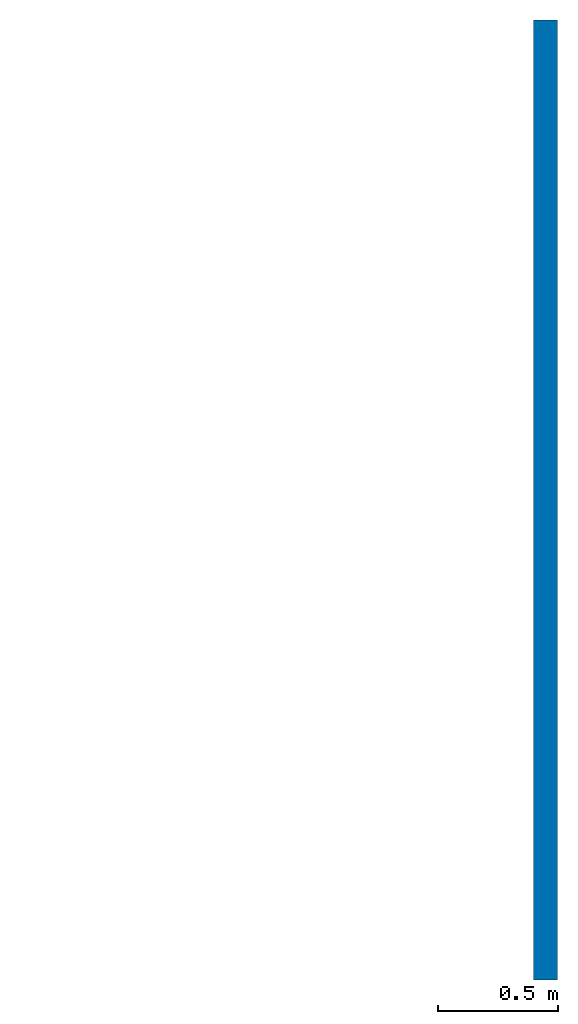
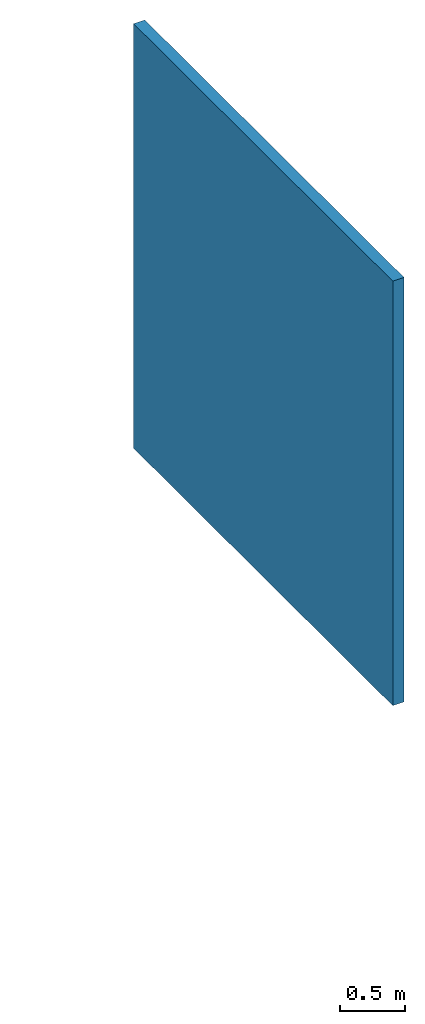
# One storey, part 2 of 2: 1 wall.
"""IFC2X3 building model written with IfcOpenShell, lengths in millimetres."""

import ifcopenshell
import ifcopenshell.guid

model = None  # the IFC model being written
_history = None  # IfcOwnerHistory: only IFC2X3 demands one
_inside = {}  # id of a spatial element -> (the spatial element, [elements in it])
_under = {}  # id of a project, library or spatial element -> (it, [spatial elements below it])
_declared = {}  # id of a project -> (the project, [libraries it declares])
_typed = {}  # id of a type object -> (the type object, [elements of that type])
_made_of = {}  # id of a material, layer set ... -> (it, [elements and type objects made of it])


def new_model(schema):
    """Start an empty IFC model of exactly this schema.

    Asked for "IFC4X3", IfcOpenShell would pick the latest addendum, in which some entities
    have other attributes; the version numbers below select the first issue.
    IFC2X3 requires an IfcOwnerHistory on every rooted entity: one is made here for all.
    """
    global model, _history
    if schema == "IFC4X3":
        model = ifcopenshell.file(schema_version=(4, 3, 0, 0))
    else:
        model = ifcopenshell.file(schema=schema)
    _inside.clear()
    _under.clear()
    _declared.clear()
    _typed.clear()
    _made_of.clear()
    _history = None
    if model.schema == "IFC2X3":
        org = make("IfcOrganization", Name="unknown")
        user = make(
            "IfcPersonAndOrganization",
            ThePerson=make("IfcPerson", FamilyName="unknown"),
            TheOrganization=org,
        )
        app = make(
            "IfcApplication",
            ApplicationDeveloper=org,
            Version="unknown",
            ApplicationFullName="unknown",
            ApplicationIdentifier="unknown",
        )
        _history = make(
            "IfcOwnerHistory",
            OwningUser=user,
            OwningApplication=app,
            ChangeAction="ADDED",
            CreationDate=0,
        )
    return model


def make(cls, **values):
    """One entity of the class cls with the attributes given. An attribute that is None is left unset."""
    return model.create_entity(
        cls, **{name: value for name, value in values.items() if value is not None}
    )


def entity(cls, *values):
    """Any entity or typed value of the class cls, its attributes in the order of the schema. None: left unset."""
    e = model.create_entity(cls)
    for i, value in enumerate(values):
        if value is not None:
            e[i] = value
    return e


def rooted(cls, **values):
    """An entity with a GlobalId (a new one), such as an element, a storey or a relation."""
    return make(cls, GlobalId=ifcopenshell.guid.new(), OwnerHistory=_history, **values)


def si_unit(unit_type, name, prefix=None):
    """IfcSIUnit, for example si_unit("LENGTHUNIT", "METRE", prefix="MILLI")."""
    return make("IfcSIUnit", UnitType=unit_type, Prefix=prefix, Name=name)


def converted_unit(unit_type, name, factor, base, dimensions=None, offset=None):
    """IfcConversionBasedUnit, such as the inch: factor (a typed value) times the base unit."""
    return make(
        "IfcConversionBasedUnit"
        if offset is None
        else "IfcConversionBasedUnitWithOffset",
        ConversionOffset=offset,
        Dimensions=None
        if dimensions is None
        else entity("IfcDimensionalExponents", *dimensions),
        UnitType=unit_type,
        Name=name,
        ConversionFactor=make(
            "IfcMeasureWithUnit", ValueComponent=factor, UnitComponent=base
        ),
    )


def derived_unit(unit_type, elements):
    """IfcDerivedUnit: a product of units, each with its exponent."""
    return make(
        "IfcDerivedUnit",
        Elements=[
            make("IfcDerivedUnitElement", Unit=unit, Exponent=power)
            for unit, power in elements
        ],
        UnitType=unit_type,
    )


def assignment(units):
    """IfcUnitAssignment: the units of a project."""
    return None if units is None else make("IfcUnitAssignment", Units=units)


def point(xyz):
    """IfcCartesianPoint."""
    return None if xyz is None else make("IfcCartesianPoint", Coordinates=xyz)


def direction(xyz):
    """IfcDirection."""
    return None if xyz is None else make("IfcDirection", DirectionRatios=xyz)


def frame(location, z_axis=None, x_axis=None):
    """IfcAxis2Placement3D, a coordinate frame: its origin and axes. An axis left out is left unset."""
    return make(
        "IfcAxis2Placement3D",
        Location=point(location),
        Axis=direction(z_axis),
        RefDirection=direction(x_axis),
    )


def frame_2d(location, x_axis=None):
    """IfcAxis2Placement2D, a coordinate frame in the plane: its origin and x axis."""
    return make(
        "IfcAxis2Placement2D", Location=point(location), RefDirection=direction(x_axis)
    )


def origin():
    """The frame at (0, 0, 0) with its axes left unset."""
    return frame((0.0, 0.0, 0.0))


def place(relative_to, where):
    """IfcLocalPlacement: puts the frame where relative to a parent placement (None: the world)."""
    return make(
        "IfcLocalPlacement", PlacementRelTo=relative_to, RelativePlacement=where
    )


def context(
    kind, dimensions, precision=None, world=None, true_north=None, identifier=None
):
    """IfcGeometricRepresentationContext, for example the 3D "Model" context."""
    return make(
        "IfcGeometricRepresentationContext",
        ContextIdentifier=identifier,
        ContextType=kind,
        CoordinateSpaceDimension=dimensions,
        Precision=precision,
        WorldCoordinateSystem=world,
        TrueNorth=true_north,
    )


def subcontext(parent, identifier, kind, view, scale=None):
    """IfcGeometricRepresentationSubContext, for example "Body" below "Model"."""
    return make(
        "IfcGeometricRepresentationSubContext",
        ContextIdentifier=identifier,
        ContextType=kind,
        ParentContext=parent,
        TargetScale=scale,
        TargetView=view,
    )


def project(units=None, contexts=None):
    """IfcProject with its units and contexts."""
    return rooted(
        "IfcProject",
        Name="project",
        RepresentationContexts=contexts,
        UnitsInContext=assignment(units),
    )


def spatial(cls, under=None, at=None, **own):
    """A site, building, storey or space (cls), placed at a placement, below another one or the project."""
    s = rooted(cls, ObjectPlacement=at, **own)
    if under is not None:
        _under.setdefault(under.id(), (under, []))[1].append(s)
    return s


def profile(cls, at=None, kind="AREA", **sizes):
    """A parametric profile (cls). Its sizes go by their IFC names, for example OverallWidth=200.0."""
    return make(cls, ProfileType=kind, Position=at, **sizes)


def rectangle(**sizes):
    """IfcRectangleProfileDef."""
    return profile("IfcRectangleProfileDef", **sizes)


def extrude(swept, where, along, depth):
    """IfcExtrudedAreaSolid: the profile swept, set in the frame where, extruded along a direction by depth."""
    return make(
        "IfcExtrudedAreaSolid",
        SweptArea=swept,
        Position=where,
        ExtrudedDirection=direction(along),
        Depth=depth,
    )


def shape(context_of_items, identifier, shape_type, items):
    """IfcShapeRepresentation: the items that make up one representation, for example the "Body"."""
    return make(
        "IfcShapeRepresentation",
        ContextOfItems=context_of_items,
        RepresentationIdentifier=identifier,
        RepresentationType=shape_type,
        Items=items,
    )


def material(Name=None, Category=None):
    """IfcMaterial."""
    return make("IfcMaterial", Name=Name, Category=Category)


def layer(
    of_material, thickness, ventilated=None, Name=None, Category=None, Priority=None
):
    """IfcMaterialLayer: one layer of a wall or slab, of a material (None: an air gap)."""
    return make(
        "IfcMaterialLayer",
        Material=of_material,
        LayerThickness=thickness,
        IsVentilated=ventilated,
        Name=Name,
        Category=Category,
        Priority=Priority,
    )


def layer_set(layers, Name=None):
    """IfcMaterialLayerSet."""
    return make("IfcMaterialLayerSet", MaterialLayers=layers, LayerSetName=Name)


def layer_usage(for_layer_set, set_direction, sense, offset, extent=None):
    """IfcMaterialLayerSetUsage: how a layer set lies in its element."""
    return make(
        "IfcMaterialLayerSetUsage",
        ForLayerSet=for_layer_set,
        LayerSetDirection=set_direction,
        DirectionSense=sense,
        OffsetFromReferenceLine=offset,
        ReferenceExtent=extent,
    )


def made_of(thing, what):
    """Note that an element or type object is made of a material, layer set ...; save() writes the relation."""
    if what is not None:
        _made_of.setdefault(what.id(), (what, []))[1].append(thing)
    return thing


def type_object(cls, material=None, **own):
    """A type object (cls), such as IfcWallType, which elements share."""
    return made_of(rooted(cls, **own), material)


def element(
    cls,
    number,
    at=None,
    inside=None,
    cuts=None,
    type_object=None,
    material=None,
    context=None,
    identifier="Body",
    shape_type=None,
    held_by="IfcProductDefinitionShape",
    body=None,
    shapes=None,
    **own,
):
    """One element of the class cls, such as IfcWall. Its Tag is "e" and its number.

    at: its placement. inside: the storey or other place that contains it. cuts: it is an
    opening in that element (IfcRelVoidsElement). A single representation is given by context,
    identifier, shape_type and body (its items); several are given by shapes. held_by: the class
    of the entity that holds the representations. save() writes the other relations.
    """
    e = rooted(cls, Tag="e%d" % number, ObjectPlacement=at, **own)
    if body is not None:
        shapes = [shape(context, identifier, shape_type, body)]
    if shapes is not None:
        e.Representation = make(held_by, Representations=shapes)
    if inside is not None:
        _inside.setdefault(inside.id(), (inside, []))[1].append(e)
    if cuts is not None:
        rooted(
            "IfcRelVoidsElement", RelatingBuildingElement=cuts, RelatedOpeningElement=e
        )
    if type_object is not None:
        _typed.setdefault(type_object.id(), (type_object, []))[1].append(e)
    return made_of(e, material)


def aggregate(whole, parts):
    """IfcRelAggregates: a whole, such as a stair, and the parts it consists of."""
    return rooted("IfcRelAggregates", RelatingObject=whole, RelatedObjects=parts)


def save(model, path):
    """Write the relations noted so far, then the file.

    IfcRelAggregates (storeys below a building ...), IfcRelContainedInSpatialStructure (elements
    in a storey), IfcRelDefinesByType, IfcRelAssociatesMaterial and IfcRelDeclares: one each for
    every whole, place, type object, material and project.
    """
    for whole, parts in _under.values():
        aggregate(whole, parts)
    for where, things in _inside.values():
        rooted(
            "IfcRelContainedInSpatialStructure",
            RelatedElements=things,
            RelatingStructure=where,
        )
    for kind, things in _typed.values():
        rooted("IfcRelDefinesByType", RelatedObjects=things, RelatingType=kind)
    for what, things in _made_of.values():
        rooted("IfcRelAssociatesMaterial", RelatedObjects=things, RelatingMaterial=what)
    for by, libraries in _declared.values():
        rooted("IfcRelDeclares", RelatingContext=by, RelatedDefinitions=libraries)
    model.write(path)


model = new_model("IFC2X3")

# Units and contexts
model_context = context("Model", 3, precision=0.01, world=origin(), true_north=direction((6.12303176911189e-17, 1.0)))
body_context = subcontext(model_context, "Body", "Model", "MODEL_VIEW")
ifc_project = project(units=[si_unit("LENGTHUNIT", "METRE", prefix="MILLI"), si_unit("AREAUNIT", "SQUARE_METRE"), si_unit("VOLUMEUNIT", "CUBIC_METRE"), converted_unit("PLANEANGLEUNIT", "DEGREE", entity("IfcRatioMeasure", 0.0174532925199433), si_unit("PLANEANGLEUNIT", "RADIAN"), dimensions=[0, 0, 0, 0, 0, 0, 0]), si_unit("MASSUNIT", "GRAM", prefix="KILO"), derived_unit("MASSDENSITYUNIT", [(si_unit("MASSUNIT", "GRAM", prefix="KILO"), 1), (si_unit("LENGTHUNIT", "METRE"), -3)]), derived_unit("MOMENTOFINERTIAUNIT", [(si_unit("LENGTHUNIT", "METRE"), 4)]), si_unit("TIMEUNIT", "SECOND"), si_unit("FREQUENCYUNIT", "HERTZ"), si_unit("THERMODYNAMICTEMPERATUREUNIT", "DEGREE_CELSIUS"), derived_unit("THERMALTRANSMITTANCEUNIT", [(si_unit("MASSUNIT", "GRAM", prefix="KILO"), 1), (si_unit("THERMODYNAMICTEMPERATUREUNIT", "KELVIN"), -1), (si_unit("TIMEUNIT", "SECOND"), -3)]), derived_unit("VOLUMETRICFLOWRATEUNIT", [(si_unit("LENGTHUNIT", "METRE"), 3), (si_unit("TIMEUNIT", "SECOND"), -1)]), si_unit("ELECTRICCURRENTUNIT", "AMPERE"), si_unit("ELECTRICVOLTAGEUNIT", "VOLT"), si_unit("POWERUNIT", "WATT"), si_unit("FORCEUNIT", "NEWTON", prefix="KILO"), si_unit("ILLUMINANCEUNIT", "LUX"), si_unit("LUMINOUSFLUXUNIT", "LUMEN"), si_unit("LUMINOUSINTENSITYUNIT", "CANDELA"), derived_unit("USERDEFINED", [(si_unit("MASSUNIT", "GRAM", prefix="KILO"), -1), (si_unit("LENGTHUNIT", "METRE"), -2), (si_unit("TIMEUNIT", "SECOND"), 3), (si_unit("LUMINOUSFLUXUNIT", "LUMEN"), 1)]), derived_unit("LINEARVELOCITYUNIT", [(si_unit("LENGTHUNIT", "METRE"), 1), (si_unit("TIMEUNIT", "SECOND"), -1)]), si_unit("PRESSUREUNIT", "PASCAL"), derived_unit("USERDEFINED", [(si_unit("LENGTHUNIT", "METRE"), -2), (si_unit("MASSUNIT", "GRAM", prefix="KILO"), 1), (si_unit("TIMEUNIT", "SECOND"), -2)]), derived_unit("LINEARFORCEUNIT", [(si_unit("MASSUNIT", "GRAM", prefix="KILO"), 1), (si_unit("LENGTHUNIT", "METRE"), 1), (si_unit("TIMEUNIT", "SECOND"), -2), (si_unit("LENGTHUNIT", "METRE"), -1)]), derived_unit("PLANARFORCEUNIT", [(si_unit("MASSUNIT", "GRAM", prefix="KILO"), 1), (si_unit("LENGTHUNIT", "METRE"), 1), (si_unit("TIMEUNIT", "SECOND"), -2), (si_unit("LENGTHUNIT", "METRE"), -2)])], contexts=[model_context])

# Site, building, storey
site_placement = place(None, origin())
site = spatial("IfcSite", under=ifc_project, at=site_placement, Name="Default", CompositionType="ELEMENT")
building_placement = place(site_placement, origin())
building = spatial("IfcBuilding", under=site, at=building_placement, CompositionType="ELEMENT")
storey_placement = place(building_placement, origin())
storey = spatial("IfcBuildingStorey", under=building, at=storey_placement, Name="Level 1", CompositionType="ELEMENT", Elevation=0.0)

# Wall
ifc_material = material(Name="Default Wall")
ifc_layer = layer(ifc_material, 100.0)
ifc_layer_set = layer_set([ifc_layer], Name="Basic Wall:Generic - 100mm")
ifc_layer_usage = layer_usage(ifc_layer_set, "AXIS2", "NEGATIVE", 50.0)
wall_type = type_object("IfcWallType", Name="Basic Wall:Generic - 100mm", PredefinedType="STANDARD", material=ifc_layer_set)
wall_placement = place(storey_placement, frame((1000050.0, 2000.0, 0.0), z_axis=(0.0, 0.0, 1.0), x_axis=(0.0, -1.0, 0.0)))
element("IfcWallStandardCase", 1, at=wall_placement, inside=storey, type_object=wall_type, material=ifc_layer_usage, Name="Basic Wall:Generic - 100mm", ObjectType="Basic Wall:Generic - 100mm", context=body_context, shape_type="SweptSolid", body=[
    extrude(rectangle(XDim=4000.0, YDim=100.000000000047, at=frame_2d((2000.0, 3.23296944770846e-12), x_axis=(-1.0, 0.0))), origin(), (0.0, 0.0, 1.0), 4000.0),
])

save(model, "model.ifc")
